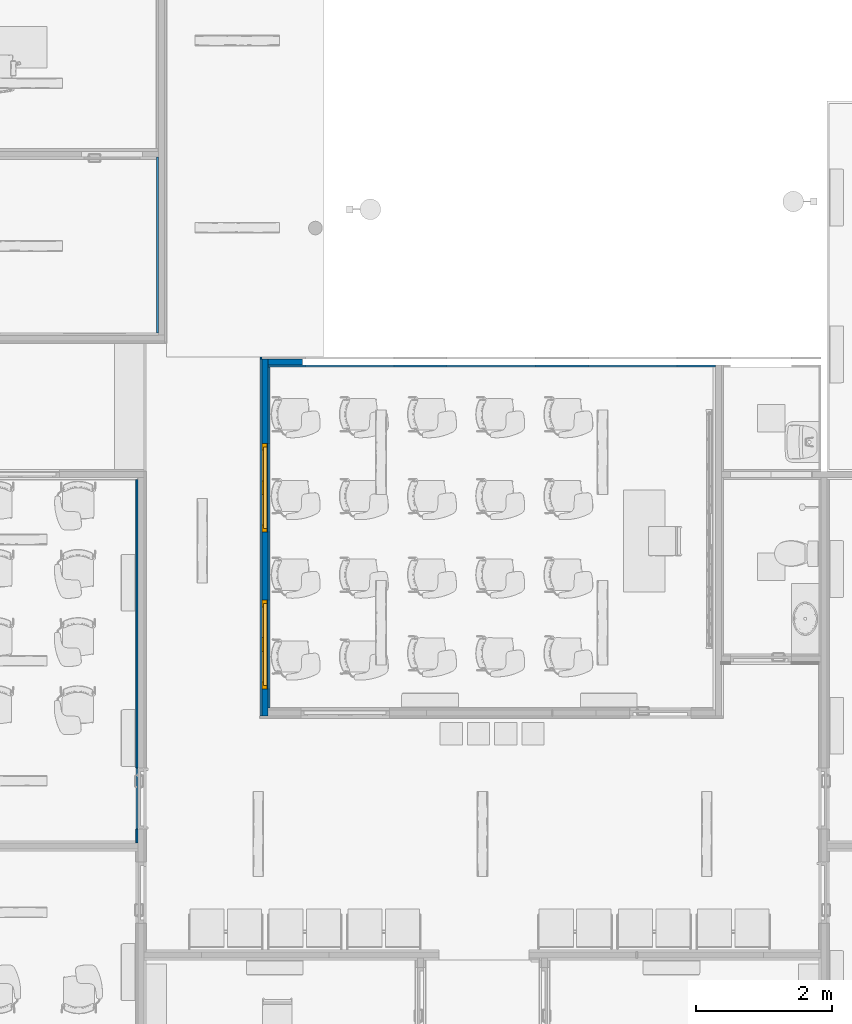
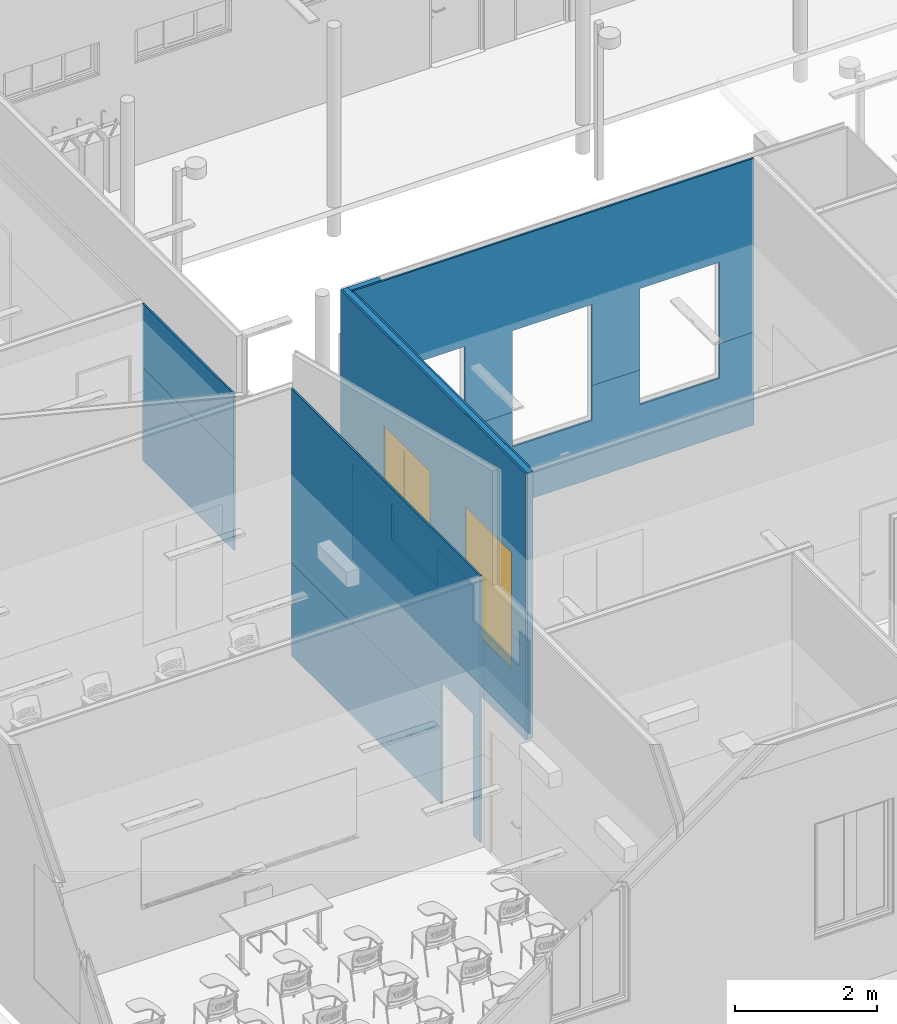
# One storey, part 16 of 155: 12 walls, 2 windows, 28 openings.
"""IFC2X3 building model written with IfcOpenShell, lengths in metres."""

import ifcopenshell
import ifcopenshell.guid

model = None  # the IFC model being written
_history = None  # IfcOwnerHistory: only IFC2X3 demands one
_inside = {}  # id of a spatial element -> (the spatial element, [elements in it])
_under = {}  # id of a project, library or spatial element -> (it, [spatial elements below it])
_declared = {}  # id of a project -> (the project, [libraries it declares])
_typed = {}  # id of a type object -> (the type object, [elements of that type])
_made_of = {}  # id of a material, layer set ... -> (it, [elements and type objects made of it])


def new_model(schema):
    """Start an empty IFC model of exactly this schema.

    Asked for "IFC4X3", IfcOpenShell would pick the latest addendum, in which some entities
    have other attributes; the version numbers below select the first issue.
    IFC2X3 requires an IfcOwnerHistory on every rooted entity: one is made here for all.
    """
    global model, _history
    if schema == "IFC4X3":
        model = ifcopenshell.file(schema_version=(4, 3, 0, 0))
    else:
        model = ifcopenshell.file(schema=schema)
    _inside.clear()
    _under.clear()
    _declared.clear()
    _typed.clear()
    _made_of.clear()
    _history = None
    if model.schema == "IFC2X3":
        org = make("IfcOrganization", Name="unknown")
        user = make(
            "IfcPersonAndOrganization",
            ThePerson=make("IfcPerson", FamilyName="unknown"),
            TheOrganization=org,
        )
        app = make(
            "IfcApplication",
            ApplicationDeveloper=org,
            Version="unknown",
            ApplicationFullName="unknown",
            ApplicationIdentifier="unknown",
        )
        _history = make(
            "IfcOwnerHistory",
            OwningUser=user,
            OwningApplication=app,
            ChangeAction="ADDED",
            CreationDate=0,
        )
    return model


def make(cls, **values):
    """One entity of the class cls with the attributes given. An attribute that is None is left unset."""
    return model.create_entity(
        cls, **{name: value for name, value in values.items() if value is not None}
    )


def entity(cls, *values):
    """Any entity or typed value of the class cls, its attributes in the order of the schema. None: left unset."""
    e = model.create_entity(cls)
    for i, value in enumerate(values):
        if value is not None:
            e[i] = value
    return e


def rooted(cls, **values):
    """An entity with a GlobalId (a new one), such as an element, a storey or a relation."""
    return make(cls, GlobalId=ifcopenshell.guid.new(), OwnerHistory=_history, **values)


def si_unit(unit_type, name, prefix=None):
    """IfcSIUnit, for example si_unit("LENGTHUNIT", "METRE", prefix="MILLI")."""
    return make("IfcSIUnit", UnitType=unit_type, Prefix=prefix, Name=name)


def converted_unit(unit_type, name, factor, base, dimensions=None, offset=None):
    """IfcConversionBasedUnit, such as the inch: factor (a typed value) times the base unit."""
    return make(
        "IfcConversionBasedUnit"
        if offset is None
        else "IfcConversionBasedUnitWithOffset",
        ConversionOffset=offset,
        Dimensions=None
        if dimensions is None
        else entity("IfcDimensionalExponents", *dimensions),
        UnitType=unit_type,
        Name=name,
        ConversionFactor=make(
            "IfcMeasureWithUnit", ValueComponent=factor, UnitComponent=base
        ),
    )


def derived_unit(unit_type, elements):
    """IfcDerivedUnit: a product of units, each with its exponent."""
    return make(
        "IfcDerivedUnit",
        Elements=[
            make("IfcDerivedUnitElement", Unit=unit, Exponent=power)
            for unit, power in elements
        ],
        UnitType=unit_type,
    )


def assignment(units):
    """IfcUnitAssignment: the units of a project."""
    return None if units is None else make("IfcUnitAssignment", Units=units)


def point(xyz):
    """IfcCartesianPoint."""
    return None if xyz is None else make("IfcCartesianPoint", Coordinates=xyz)


def direction(xyz):
    """IfcDirection."""
    return None if xyz is None else make("IfcDirection", DirectionRatios=xyz)


def frame(location, z_axis=None, x_axis=None):
    """IfcAxis2Placement3D, a coordinate frame: its origin and axes. An axis left out is left unset."""
    return make(
        "IfcAxis2Placement3D",
        Location=point(location),
        Axis=direction(z_axis),
        RefDirection=direction(x_axis),
    )


def frame_2d(location, x_axis=None):
    """IfcAxis2Placement2D, a coordinate frame in the plane: its origin and x axis."""
    return make(
        "IfcAxis2Placement2D", Location=point(location), RefDirection=direction(x_axis)
    )


def origin():
    """The frame at (0, 0, 0) with its axes left unset."""
    return frame((0.0, 0.0, 0.0))


def origin_2d_with_axis():
    """The frame at (0, 0) in the plane with the x axis (1, 0) written out."""
    return frame_2d((0.0, 0.0), x_axis=(1.0, 0.0))


def place(relative_to, where):
    """IfcLocalPlacement: puts the frame where relative to a parent placement (None: the world)."""
    return make(
        "IfcLocalPlacement", PlacementRelTo=relative_to, RelativePlacement=where
    )


def context(
    kind, dimensions, precision=None, world=None, true_north=None, identifier=None
):
    """IfcGeometricRepresentationContext, for example the 3D "Model" context."""
    return make(
        "IfcGeometricRepresentationContext",
        ContextIdentifier=identifier,
        ContextType=kind,
        CoordinateSpaceDimension=dimensions,
        Precision=precision,
        WorldCoordinateSystem=world,
        TrueNorth=true_north,
    )


def subcontext(parent, identifier, kind, view, scale=None):
    """IfcGeometricRepresentationSubContext, for example "Body" below "Model"."""
    return make(
        "IfcGeometricRepresentationSubContext",
        ContextIdentifier=identifier,
        ContextType=kind,
        ParentContext=parent,
        TargetScale=scale,
        TargetView=view,
    )


def project(units=None, contexts=None):
    """IfcProject with its units and contexts."""
    return rooted(
        "IfcProject",
        Name="project",
        RepresentationContexts=contexts,
        UnitsInContext=assignment(units),
    )


def spatial(cls, under=None, at=None, **own):
    """A site, building, storey or space (cls), placed at a placement, below another one or the project."""
    s = rooted(cls, ObjectPlacement=at, **own)
    if under is not None:
        _under.setdefault(under.id(), (under, []))[1].append(s)
    return s


def polyline(points):
    """IfcPolyline through the points."""
    return make("IfcPolyline", Points=[point(p) for p in points])


def profile(cls, at=None, kind="AREA", **sizes):
    """A parametric profile (cls). Its sizes go by their IFC names, for example OverallWidth=200.0."""
    return make(cls, ProfileType=kind, Position=at, **sizes)


def rectangle(**sizes):
    """IfcRectangleProfileDef."""
    return profile("IfcRectangleProfileDef", **sizes)


def outline(outer, holes=None, kind="AREA"):
    """IfcArbitraryClosedProfileDef: a profile drawn as a closed curve; with holes, ...WithVoids."""
    if holes is None:
        return make("IfcArbitraryClosedProfileDef", ProfileType=kind, OuterCurve=outer)
    return make(
        "IfcArbitraryProfileDefWithVoids",
        ProfileType=kind,
        OuterCurve=outer,
        InnerCurves=holes,
    )


def extrude(swept, where, along, depth):
    """IfcExtrudedAreaSolid: the profile swept, set in the frame where, extruded along a direction by depth."""
    return make(
        "IfcExtrudedAreaSolid",
        SweptArea=swept,
        Position=where,
        ExtrudedDirection=direction(along),
        Depth=depth,
    )


def shape(context_of_items, identifier, shape_type, items):
    """IfcShapeRepresentation: the items that make up one representation, for example the "Body"."""
    return make(
        "IfcShapeRepresentation",
        ContextOfItems=context_of_items,
        RepresentationIdentifier=identifier,
        RepresentationType=shape_type,
        Items=items,
    )


def source(mapping_origin, context_of_items, identifier, shape_type, items):
    """IfcRepresentationMap: a shape defined once, which mapped items show again and again."""
    return make(
        "IfcRepresentationMap",
        MappingOrigin=mapping_origin,
        MappedRepresentation=shape(context_of_items, identifier, shape_type, items),
    )


def transform(
    local_origin,
    x_axis=None,
    y_axis=None,
    z_axis=None,
    scale=None,
    scale2=None,
    scale3=None,
    uniform=True,
):
    """IfcCartesianTransformationOperator3D, or its non-uniform kind. x_axis, y_axis, z_axis: its Axis1, 2, 3."""
    if uniform:
        return make(
            "IfcCartesianTransformationOperator3D",
            Axis1=direction(x_axis),
            Axis2=direction(y_axis),
            LocalOrigin=point(local_origin),
            Scale=scale,
            Axis3=direction(z_axis),
        )
    return make(
        "IfcCartesianTransformationOperator3DnonUniform",
        Axis1=direction(x_axis),
        Axis2=direction(y_axis),
        LocalOrigin=point(local_origin),
        Scale=scale,
        Axis3=direction(z_axis),
        Scale2=scale2,
        Scale3=scale3,
    )


def mapped(mapping_source, mapping_target):
    """IfcMappedItem: shows the shape of a source again, moved by a transform."""
    return make(
        "IfcMappedItem", MappingSource=mapping_source, MappingTarget=mapping_target
    )


def material(Name=None, Category=None):
    """IfcMaterial."""
    return make("IfcMaterial", Name=Name, Category=Category)


def layer(
    of_material, thickness, ventilated=None, Name=None, Category=None, Priority=None
):
    """IfcMaterialLayer: one layer of a wall or slab, of a material (None: an air gap)."""
    return make(
        "IfcMaterialLayer",
        Material=of_material,
        LayerThickness=thickness,
        IsVentilated=ventilated,
        Name=Name,
        Category=Category,
        Priority=Priority,
    )


def layer_set(layers, Name=None):
    """IfcMaterialLayerSet."""
    return make("IfcMaterialLayerSet", MaterialLayers=layers, LayerSetName=Name)


def layer_usage(for_layer_set, set_direction, sense, offset, extent=None):
    """IfcMaterialLayerSetUsage: how a layer set lies in its element."""
    return make(
        "IfcMaterialLayerSetUsage",
        ForLayerSet=for_layer_set,
        LayerSetDirection=set_direction,
        DirectionSense=sense,
        OffsetFromReferenceLine=offset,
        ReferenceExtent=extent,
    )


def made_of(thing, what):
    """Note that an element or type object is made of a material, layer set ...; save() writes the relation."""
    if what is not None:
        _made_of.setdefault(what.id(), (what, []))[1].append(thing)
    return thing


def type_object(cls, material=None, **own):
    """A type object (cls), such as IfcWallType, which elements share."""
    return made_of(rooted(cls, **own), material)


def type_shapes(of_type, sources):
    """Give a type object the sources (RepresentationMaps) that its elements show as mapped items."""
    of_type.RepresentationMaps = sources


def element(
    cls,
    number,
    at=None,
    inside=None,
    cuts=None,
    type_object=None,
    material=None,
    context=None,
    identifier="Body",
    shape_type=None,
    held_by="IfcProductDefinitionShape",
    body=None,
    shapes=None,
    **own,
):
    """One element of the class cls, such as IfcWall. Its Tag is "e" and its number.

    at: its placement. inside: the storey or other place that contains it. cuts: it is an
    opening in that element (IfcRelVoidsElement). A single representation is given by context,
    identifier, shape_type and body (its items); several are given by shapes. held_by: the class
    of the entity that holds the representations. save() writes the other relations.
    """
    e = rooted(cls, Tag="e%d" % number, ObjectPlacement=at, **own)
    if body is not None:
        shapes = [shape(context, identifier, shape_type, body)]
    if shapes is not None:
        e.Representation = make(held_by, Representations=shapes)
    if inside is not None:
        _inside.setdefault(inside.id(), (inside, []))[1].append(e)
    if cuts is not None:
        rooted(
            "IfcRelVoidsElement", RelatingBuildingElement=cuts, RelatedOpeningElement=e
        )
    if type_object is not None:
        _typed.setdefault(type_object.id(), (type_object, []))[1].append(e)
    return made_of(e, material)


def fill(opening, filler):
    """IfcRelFillsElement: the door or window that sits in an opening."""
    return rooted(
        "IfcRelFillsElement",
        RelatingOpeningElement=opening,
        RelatedBuildingElement=filler,
    )


def aggregate(whole, parts):
    """IfcRelAggregates: a whole, such as a stair, and the parts it consists of."""
    return rooted("IfcRelAggregates", RelatingObject=whole, RelatedObjects=parts)


def save(model, path):
    """Write the relations noted so far, then the file.

    IfcRelAggregates (storeys below a building ...), IfcRelContainedInSpatialStructure (elements
    in a storey), IfcRelDefinesByType, IfcRelAssociatesMaterial and IfcRelDeclares: one each for
    every whole, place, type object, material and project.
    """
    for whole, parts in _under.values():
        aggregate(whole, parts)
    for where, things in _inside.values():
        rooted(
            "IfcRelContainedInSpatialStructure",
            RelatedElements=things,
            RelatingStructure=where,
        )
    for kind, things in _typed.values():
        rooted("IfcRelDefinesByType", RelatedObjects=things, RelatingType=kind)
    for what, things in _made_of.values():
        rooted("IfcRelAssociatesMaterial", RelatedObjects=things, RelatingMaterial=what)
    for by, libraries in _declared.values():
        rooted("IfcRelDeclares", RelatingContext=by, RelatedDefinitions=libraries)
    model.write(path)


model = new_model("IFC2X3")

# Units and contexts
model_context = context("Model", 3, precision=1e-05, world=origin(), true_north=direction((6.12303176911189e-17, 1.0)))
body_context = subcontext(model_context, "Body", "Model", "MODEL_VIEW")
ifc_project = project(units=[si_unit("LENGTHUNIT", "METRE"), si_unit("AREAUNIT", "SQUARE_METRE"), si_unit("VOLUMEUNIT", "CUBIC_METRE"), converted_unit("PLANEANGLEUNIT", "DEGREE", entity("IfcRatioMeasure", 0.0174532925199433), si_unit("PLANEANGLEUNIT", "RADIAN"), dimensions=[0, 0, 0, 0, 0, 0, 0]), si_unit("MASSUNIT", "GRAM", prefix="KILO"), derived_unit("MASSDENSITYUNIT", [(si_unit("MASSUNIT", "GRAM", prefix="KILO"), 1), (si_unit("LENGTHUNIT", "METRE"), -3)]), si_unit("TIMEUNIT", "SECOND"), si_unit("FREQUENCYUNIT", "HERTZ"), si_unit("THERMODYNAMICTEMPERATUREUNIT", "DEGREE_CELSIUS"), derived_unit("THERMALTRANSMITTANCEUNIT", [(si_unit("MASSUNIT", "GRAM", prefix="KILO"), 1), (si_unit("THERMODYNAMICTEMPERATUREUNIT", "KELVIN"), -1), (si_unit("TIMEUNIT", "SECOND"), -3)]), derived_unit("VOLUMETRICFLOWRATEUNIT", [(si_unit("LENGTHUNIT", "METRE"), 3), (si_unit("TIMEUNIT", "SECOND"), -1)]), si_unit("ELECTRICCURRENTUNIT", "AMPERE"), si_unit("ELECTRICVOLTAGEUNIT", "VOLT"), si_unit("POWERUNIT", "WATT"), si_unit("FORCEUNIT", "NEWTON", prefix="KILO"), si_unit("ILLUMINANCEUNIT", "LUX"), si_unit("LUMINOUSFLUXUNIT", "LUMEN"), si_unit("LUMINOUSINTENSITYUNIT", "CANDELA"), derived_unit("USERDEFINED", [(si_unit("MASSUNIT", "GRAM", prefix="KILO"), -1), (si_unit("LENGTHUNIT", "METRE"), -2), (si_unit("TIMEUNIT", "SECOND"), 3), (si_unit("LUMINOUSFLUXUNIT", "LUMEN"), 1)]), derived_unit("LINEARVELOCITYUNIT", [(si_unit("LENGTHUNIT", "METRE"), 1), (si_unit("TIMEUNIT", "SECOND"), -1)]), si_unit("PRESSUREUNIT", "PASCAL"), derived_unit("USERDEFINED", [(si_unit("LENGTHUNIT", "METRE"), -2), (si_unit("MASSUNIT", "GRAM", prefix="KILO"), 1), (si_unit("TIMEUNIT", "SECOND"), -2)])], contexts=[model_context])

# Site, building, storey
site_placement = place(None, frame((26.9889013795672, -17.5624287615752, 0.0)))
site = spatial("IfcSite", under=ifc_project, at=site_placement, Name="Default", CompositionType="ELEMENT")
building_placement = place(site_placement, origin())
building = spatial("IfcBuilding", under=site, at=building_placement, Name="C. C. L. Monsenhor Antônio Sampaio", CompositionType="ELEMENT")
storey_placement = place(building_placement, frame((0.0, 0.0, 1.19999999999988)))
storey = spatial("IfcBuildingStorey", under=building, at=storey_placement, Name="Nível 1.2", CompositionType="ELEMENT", Elevation=1.19999999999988)

# Wall, openings, windows
ifc_material_1 = material(Name="ALVENARIA")
ifc_layer_1 = layer(ifc_material_1, 0.09)
ifc_layer_set_1 = layer_set([ifc_layer_1], Name="Parede básica:ENucleo parede 15cm")
ifc_layer_usage_1 = layer_usage(ifc_layer_set_1, "AXIS2", "POSITIVE", -0.045)
wall_type_1 = type_object("IfcWallType", Name="Parede básica:ENucleo parede 15cm", PredefinedType="STANDARD", material=ifc_layer_set_1)
wall_1_placement = place(storey_placement, frame((-4.39555229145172, -31.9230663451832, 0.0), z_axis=(0.0, 0.0, 1.0), x_axis=(0.0, 1.0, 0.0)))
wall_1 = element("IfcWallStandardCase", 1, at=wall_1_placement, inside=storey, type_object=wall_type_1, material=ifc_layer_usage_1, Name="Parede básica:ENucleo parede 15cm", ObjectType="Parede básica:ENucleo parede 15cm", context=body_context, shape_type="SweptSolid", body=[
    extrude(rectangle(XDim=5.23999999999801, YDim=0.0900000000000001, at=frame_2d((2.619999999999, 6.93889390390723e-17), x_axis=(-1.0, 0.0))), origin(), (0.0, 0.0, 1.0), 4.60000000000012),
])
opening_1_placement = place(wall_1_placement, frame((0.399999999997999, -0.0450000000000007, 1.0)))
opening_1 = element("IfcOpeningElement", 2, at=opening_1_placement, cuts=wall_1, Name="Janela levantamento:130 x 200cm 2:1", ObjectType="Opening", context=body_context, shape_type="SweptSolid", body=[
    extrude(rectangle(XDim=2.0, YDim=1.30000000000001, at=frame_2d((0.999999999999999, 0.650000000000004), x_axis=(1.0, 0.0))), frame((0.0, 0.0, 0.0), z_axis=(0.0, 1.0, 0.0), x_axis=(0.0, 0.0, 1.0)), (0.0, 0.0, 1.0), 0.09),
])
opening_2_placement = place(wall_1_placement, frame((2.699999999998, -0.045000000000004, 1.0)))
opening_2 = element("IfcOpeningElement", 3, at=opening_2_placement, cuts=wall_1, Name="Janela levantamento:130 x 200cm 2:1", ObjectType="Opening", context=body_context, shape_type="SweptSolid", body=[
    extrude(rectangle(XDim=2.0, YDim=1.30000000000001, at=frame_2d((0.999999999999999, 0.650000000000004), x_axis=(1.0, 0.0))), frame((0.0, 0.0, 0.0), z_axis=(0.0, 1.0, 0.0), x_axis=(0.0, 0.0, 1.0)), (0.0, 0.0, 1.0), 0.09),
])
ifc_material_2 = material(Name="Pintura Azul")
window_style = type_object("IfcWindowStyle", Name="130 x 200cm 2", ConstructionType="NOTDEFINED", OperationType="NOTDEFINED", ParameterTakesPrecedence=False, Sizeable=False, material=ifc_material_2)
shared_shape = source(origin(), body_context, "Body", "SweptSolid", [
    extrude(rectangle(XDim=1.3, YDim=0.0209999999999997, at=frame_2d((0.0, 4.33680868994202e-18), x_axis=(1.0, 0.0))), frame((0.650000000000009, 0.0795000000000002, 0.0)), (0.0, 0.0, 1.0), 0.0299999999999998),
    extrude(outline(polyline([(-0.325000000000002, -1.0), (0.325000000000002, -1.0), (0.325000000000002, 1.0), (-0.325000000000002, 1.0), (-0.325000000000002, -1.0)]), holes=[polyline([(0.225000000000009, -0.899999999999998), (-0.225000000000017, -0.899999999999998), (-0.225000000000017, 0.900000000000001), (0.225000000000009, 0.900000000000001), (0.225000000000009, -0.899999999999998)])]), frame((0.325000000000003, 0.0690000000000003, 1.0), z_axis=(0.0, 1.0, 0.0), x_axis=(1.0, 0.0, 0.0)), (0.0, 0.0, 1.0), 0.04),
    extrude(outline(polyline([(-0.650000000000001, -1.0), (0.650000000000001, -1.0), (0.650000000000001, 1.0), (-0.650000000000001, 1.0), (-0.650000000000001, -1.0)]), holes=[polyline([(-0.599999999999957, -0.949999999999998), (-0.599999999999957, 0.94), (0.600000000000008, 0.94), (0.600000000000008, -0.949999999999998), (-0.599999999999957, -0.949999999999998)])]), frame((0.650000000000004, 0.019, 1.0), z_axis=(0.0, 1.0, 0.0), x_axis=(1.0, 0.0, 0.0)), (0.0, 0.0, 1.0), 0.05),
    extrude(rectangle(XDim=0.0205880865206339, YDim=0.450000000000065, at=origin_2d_with_axis()), frame((0.324999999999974, 0.0987059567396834, 0.0999999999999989), z_axis=(0.0, 0.0, 1.0), x_axis=(0.0, 1.0, 0.0)), (0.0, 0.0, 1.0), 1.8),
    extrude(rectangle(XDim=0.0205880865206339, YDim=0.449999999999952, at=frame_2d((0.0, 4.16333634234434e-17), x_axis=(1.0, 0.0))), frame((0.977826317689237, 0.0987059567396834, 0.100000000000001), z_axis=(0.0, 0.0, 1.0), x_axis=(0.0, 1.0, 0.0)), (0.0, 0.0, 1.0), 1.8),
    extrude(outline(polyline([(-1.0, -0.325000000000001), (1.0, -0.325000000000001), (1.0, 0.325000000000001), (-1.0, 0.325000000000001), (-1.0, -0.325000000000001)]), holes=[polyline([(-0.899999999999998, 0.224999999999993), (0.900000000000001, 0.224999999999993), (0.900000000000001, -0.225000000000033), (-0.899999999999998, -0.225000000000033), (-0.899999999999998, 0.224999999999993)])]), frame((0.975000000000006, 0.0690000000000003, 1.0), z_axis=(0.0, 1.0, 0.0), x_axis=(0.0, 0.0, -1.0)), (0.0, 0.0, 1.0), 0.04),
])
type_shapes(window_style, [shared_shape])
window_1_placement = place(opening_2_placement, origin())
window_1 = element("IfcWindow", 4, at=window_1_placement, inside=storey, type_object=window_style, material=ifc_material_2, Name="Janela levantamento:130 x 200cm 2", ObjectType="130 x 200cm 2", OverallHeight=2.0, OverallWidth=1.30000000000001, context=body_context, shape_type="MappedRepresentation", body=[
    mapped(shared_shape, transform((0.0, 0.0, 0.0), scale=1.0)),
])
fill(opening_2, window_1)
window_2_placement = place(opening_1_placement, origin())
window_2 = element("IfcWindow", 5, at=window_2_placement, inside=storey, type_object=window_style, material=ifc_material_2, Name="Janela levantamento:130 x 200cm 2", ObjectType="130 x 200cm 2", OverallHeight=2.0, OverallWidth=1.30000000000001, context=body_context, shape_type="MappedRepresentation", body=[
    mapped(shared_shape, transform((0.0, 0.0, 0.0), scale=1.0)),
])
fill(opening_1, window_2)

# Wall
ifc_layer_usage_2 = layer_usage(ifc_layer_set_1, "AXIS2", "POSITIVE", -0.045)
wall_2_placement = place(storey_placement, frame((-4.35055229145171, -26.7280663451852, 0.0)))
element("IfcWallStandardCase", 6, at=wall_2_placement, inside=storey, type_object=wall_type_1, material=ifc_layer_usage_2, Name="Parede básica:ENucleo parede 15cm", ObjectType="Parede básica:ENucleo parede 15cm", context=body_context, shape_type="SweptSolid", body=[
    extrude(rectangle(XDim=0.5050000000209, YDim=0.0899999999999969, at=frame_2d((0.25250000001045, 8.36136715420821e-16), x_axis=(-1.0, 0.0))), origin(), (0.0, 0.0, 1.0), 4.60000000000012),
])

# Wall, openings
ifc_material_3 = material(Name=".CERÂMICA 10x10 BRANCA")
ifc_layer_2 = layer(ifc_material_3, 0.0035)
ifc_material_4 = material(Name="Argamassa Colante")
ifc_layer_3 = layer(ifc_material_4, 0.02)
ifc_material_5 = material(Name="4")
ifc_layer_4 = layer(ifc_material_5, 0.0015)
ifc_material_6 = material(Name="3")
ifc_layer_5 = layer(ifc_material_6, 0.005)
ifc_layer_set_2 = layer_set([ifc_layer_2, ifc_layer_3, ifc_layer_4, ifc_layer_5], Name="Parede básica:ECeramica branca 10x10cm")
ifc_layer_usage_3 = layer_usage(ifc_layer_set_2, "AXIS2", "NEGATIVE", 0.015)
wall_type_2 = type_object("IfcWallType", Name="Parede básica:ECeramica branca 10x10cm", PredefinedType="STANDARD", material=ifc_layer_set_2)
wall_3_placement = place(storey_placement, frame((-4.45555229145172, -31.9230663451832, 0.0), z_axis=(0.0, 0.0, 1.0), x_axis=(0.0, 1.0, 0.0)))
wall_3 = element("IfcWallStandardCase", 7, at=wall_3_placement, inside=storey, type_object=wall_type_2, material=ifc_layer_usage_3, Name="Parede básica:ECeramica branca 10x10cm", ObjectType="Parede básica:ECeramica branca 10x10cm", context=body_context, shape_type="SweptSolid", body=[
    extrude(rectangle(XDim=5.269999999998, YDim=0.0299999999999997, at=frame_2d((2.634999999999, 2.42861286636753e-17), x_axis=(-1.0, 0.0))), origin(), (0.0, 0.0, 1.0), 1.6),
])
opening_3_placement = place(wall_3_placement, origin())
element("IfcOpeningElement", 8, at=opening_3_placement, cuts=wall_3, Name="Parede básica:ECeramica branca 10x10cm", ObjectType="Opening", context=body_context, shape_type="SweptSolid", body=[
    extrude(rectangle(XDim=2.0, YDim=1.30000000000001, at=frame_2d((1.66533453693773e-16, 0.0), x_axis=(1.0, 0.0))), frame((3.349999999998, -1.629, 2.0), z_axis=(0.0, 1.0, 0.0), x_axis=(0.0, 0.0, 1.0)), (0.0, 0.0, 1.0), 3.048),
])
opening_4_placement = place(wall_3_placement, origin())
element("IfcOpeningElement", 9, at=opening_4_placement, cuts=wall_3, Name="Parede básica:ECeramica branca 10x10cm", ObjectType="Opening", context=body_context, shape_type="SweptSolid", body=[
    extrude(rectangle(XDim=2.0, YDim=1.30000000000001, at=frame_2d((1.66533453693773e-16, 0.0), x_axis=(1.0, 0.0))), frame((1.04999999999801, -1.629, 2.0), z_axis=(0.0, 1.0, 0.0), x_axis=(0.0, 0.0, 1.0)), (0.0, 0.0, 1.0), 3.048),
])

# Wall
wall_4_placement = place(storey_placement, frame((-6.27555229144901, -28.453066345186, 0.0), z_axis=(0.0, 0.0, 1.0), x_axis=(0.0, -1.0, 0.0)))
element("IfcWall", 10, at=wall_4_placement, inside=storey, type_object=wall_type_2, Name="Parede básica:ECeramica branca 10x10cm", ObjectType="Parede básica:ECeramica branca 10x10cm", context=body_context, shape_type="SweptSolid", body=[
    extrude(rectangle(XDim=4.23000000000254, YDim=0.0299999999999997, at=frame_2d((-1.99840144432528e-15, 0.0), x_axis=(1.0, 0.0))), frame((2.11500000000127, 0.0, 0.0)), (0.0, 0.0, 1.0), 1.6),
    extrude(rectangle(XDim=0.199999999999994, YDim=0.0299999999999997, at=frame_2d((0.0140000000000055, -0.0030000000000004), x_axis=(1.0, 0.0))), frame((5.24400000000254, -0.00300000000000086, 0.0), z_axis=(0.0, 0.0, 1.0), x_axis=(-1.0, 0.0, 0.0)), (0.0, 0.0, 1.0), 1.6),
])

# Wall, openings
ifc_layer_usage_4 = layer_usage(ifc_layer_set_2, "AXIS2", "NEGATIVE", 0.015)
wall_5_placement = place(storey_placement, frame((-5.97555229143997, -26.3030663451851, 0.4), z_axis=(0.0, 0.0, 1.0), x_axis=(0.0, 1.0, 0.0)))
wall_5 = element("IfcWallStandardCase", 11, at=wall_5_placement, inside=storey, type_object=wall_type_2, material=ifc_layer_usage_4, Name="Parede básica:ECeramica branca 10x10cm", ObjectType="Parede básica:ECeramica branca 10x10cm", context=body_context, shape_type="SweptSolid", body=[
    extrude(rectangle(XDim=2.57999999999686, YDim=0.0299999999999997, at=frame_2d((1.28999999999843, 0.0), x_axis=(-1.0, 0.0))), origin(), (0.0, 0.0, 1.0), 1.6),
])
opening_5_placement = place(wall_5_placement, origin())
element("IfcOpeningElement", 12, at=opening_5_placement, cuts=wall_5, Name="Parede básica:ECeramica branca 10x10cm", ObjectType="Opening", context=body_context, shape_type="SweptSolid", body=[
    extrude(rectangle(XDim=2.05, YDim=1.85, at=frame_2d((0.0, -2.16493489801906e-15), x_axis=(1.0, 0.0))), frame((7.19499999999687, -1.539, 0.625), z_axis=(0.0, 1.0, 0.0), x_axis=(0.0, 0.0, 1.0)), (0.0, 0.0, 1.0), 3.048),
])
opening_6_placement = place(wall_5_placement, origin())
element("IfcOpeningElement", 13, at=opening_6_placement, cuts=wall_5, Name="Parede básica:ECeramica branca 10x10cm", ObjectType="Opening", context=body_context, shape_type="SweptSolid", body=[
    extrude(rectangle(XDim=0.569999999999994, YDim=3.07, at=frame_2d((0.0, 2.77555756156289e-16), x_axis=(0.0, 1.0))), frame((10.8300000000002, -1.539, 1.65000000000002), z_axis=(0.0, 1.0, 0.0), x_axis=(-1.0, 0.0, 0.0)), (0.0, 0.0, 1.0), 3.048),
])
opening_7_placement = place(wall_5_placement, origin())
element("IfcOpeningElement", 14, at=opening_7_placement, cuts=wall_5, Name="Parede básica:ECeramica branca 10x10cm", ObjectType="Opening", context=body_context, shape_type="SweptSolid", body=[
    extrude(rectangle(XDim=0.569999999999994, YDim=3.07, at=frame_2d((0.0, 2.77555756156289e-16), x_axis=(0.0, 1.0))), frame((14.5300000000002, -1.539, 1.65000000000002), z_axis=(0.0, 1.0, 0.0), x_axis=(-1.0, 0.0, 0.0)), (0.0, 0.0, 1.0), 3.048),
])

ifc_layer_usage_5 = layer_usage(ifc_layer_set_2, "AXIS2", "POSITIVE", -0.015)
wall_6_placement = place(storey_placement, frame((-4.35055229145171, -26.7880663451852, 0.0)))
wall_6 = element("IfcWallStandardCase", 15, at=wall_6_placement, inside=storey, type_object=wall_type_2, material=ifc_layer_usage_5, Name="Parede básica:ECeramica branca 10x10cm", ObjectType="Parede básica:ECeramica branca 10x10cm", context=body_context, shape_type="SweptSolid", body=[
    extrude(rectangle(XDim=6.55998629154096, YDim=0.0300000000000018, at=frame_2d((3.27999314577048, 0.0), x_axis=(-1.0, 0.0))), origin(), (0.0, 0.0, 1.0), 1.6),
])
opening_8_placement = place(wall_6_placement, origin())
element("IfcOpeningElement", 16, at=opening_8_placement, cuts=wall_6, Name="Parede básica:ECeramica branca 10x10cm", ObjectType="Opening", context=body_context, shape_type="SweptSolid", body=[
    extrude(rectangle(XDim=2.0, YDim=1.30000000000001, at=frame_2d((1.66533453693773e-16, 0.0), x_axis=(1.0, 0.0))), frame((5.3500000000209, -1.419, 2.0), z_axis=(0.0, 1.0, 0.0), x_axis=(0.0, 0.0, 1.0)), (0.0, 0.0, 1.0), 3.048),
])
opening_9_placement = place(wall_6_placement, origin())
element("IfcOpeningElement", 17, at=opening_9_placement, cuts=wall_6, Name="Parede básica:ECeramica branca 10x10cm", ObjectType="Opening", context=body_context, shape_type="SweptSolid", body=[
    extrude(rectangle(XDim=2.0, YDim=1.30000000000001, at=frame_2d((-1.11022302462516e-16, -3.88578058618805e-16), x_axis=(0.0, 1.0))), frame((3.2700000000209, -1.419, 2.0), z_axis=(0.0, 1.0, 0.0), x_axis=(-1.0, 0.0, 0.0)), (0.0, 0.0, 1.0), 3.048),
])
opening_10_placement = place(wall_6_placement, origin())
element("IfcOpeningElement", 18, at=opening_10_placement, cuts=wall_6, Name="Parede básica:ECeramica branca 10x10cm", ObjectType="Opening", context=body_context, shape_type="SweptSolid", body=[
    extrude(rectangle(XDim=2.0, YDim=1.30000000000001, at=frame_2d((0.0, 3.88578058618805e-16), x_axis=(0.0, 1.0))), frame((1.1950000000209, -1.419, 2.0), z_axis=(0.0, 1.0, 0.0), x_axis=(-1.0, 0.0, 0.0)), (0.0, 0.0, 1.0), 3.048),
])
opening_11_placement = place(wall_6_placement, origin())
element("IfcOpeningElement", 19, at=opening_11_placement, cuts=wall_6, Name="Parede básica:ECeramica branca 10x10cm", ObjectType="Opening", context=body_context, shape_type="SweptSolid", body=[
    extrude(rectangle(XDim=2.09999999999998, YDim=0.9, at=frame_2d((-1.11022302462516e-16, 0.0), x_axis=(1.0, 0.0))), frame((7.2300000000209, -1.509, 0.799999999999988), z_axis=(0.0, 1.0, 0.0), x_axis=(0.0, 0.0, 1.0)), (0.0, 0.0, 1.0), 3.048),
])

ifc_layer_usage_6 = layer_usage(ifc_layer_set_2, "AXIS2", "NEGATIVE", 0.015)
wall_7_placement = place(storey_placement, frame((-4.33555229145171, -26.8030663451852, 0.0), z_axis=(0.0, 0.0, 1.0), x_axis=(0.0, -1.0, 0.0)))
wall_7 = element("IfcWallStandardCase", 20, at=wall_7_placement, inside=storey, type_object=wall_type_2, material=ifc_layer_usage_6, Name="Parede básica:ECeramica branca 10x10cm", ObjectType="Parede básica:ECeramica branca 10x10cm", context=body_context, shape_type="SweptSolid", body=[
    extrude(rectangle(XDim=4.999999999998, YDim=0.0299999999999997, at=frame_2d((2.499999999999, 0.0), x_axis=(-1.0, 0.0))), origin(), (0.0, 0.0, 1.0), 1.6),
])
opening_12_placement = place(wall_7_placement, origin())
element("IfcOpeningElement", 21, at=opening_12_placement, cuts=wall_7, Name="Parede básica:ECeramica branca 10x10cm", ObjectType="Opening", context=body_context, shape_type="SweptSolid", body=[
    extrude(rectangle(XDim=2.0, YDim=1.30000000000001, at=frame_2d((0.0, -3.88578058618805e-16), x_axis=(0.0, 1.0))), frame((1.77, -1.539, 2.0), z_axis=(0.0, 1.0, 0.0), x_axis=(-1.0, 0.0, 0.0)), (0.0, 0.0, 1.0), 3.048),
])
opening_13_placement = place(wall_7_placement, origin())
element("IfcOpeningElement", 22, at=opening_13_placement, cuts=wall_7, Name="Parede básica:ECeramica branca 10x10cm", ObjectType="Opening", context=body_context, shape_type="SweptSolid", body=[
    extrude(rectangle(XDim=2.0, YDim=1.30000000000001, at=frame_2d((0.0, -3.88578058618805e-16), x_axis=(0.0, 1.0))), frame((4.07, -1.539, 2.0), z_axis=(0.0, 1.0, 0.0), x_axis=(-1.0, 0.0, 0.0)), (0.0, 0.0, 1.0), 3.048),
])

ifc_material_7 = material(Name="Acabamento Branco")
ifc_layer_6 = layer(ifc_material_7, 0.0035)
ifc_material_8 = material(Name="Massa corrida")
ifc_layer_7 = layer(ifc_material_8, 0.02)
ifc_layer_8 = layer(ifc_material_5, 0.0015)
ifc_layer_9 = layer(ifc_material_6, 0.005)
ifc_layer_set_3 = layer_set([ifc_layer_6, ifc_layer_7, ifc_layer_8, ifc_layer_9], Name="Parede básica:EPintura Branca")
ifc_layer_usage_7 = layer_usage(ifc_layer_set_3, "AXIS2", "NEGATIVE", 0.015)
wall_type_3 = type_object("IfcWallType", Name="Parede básica:EPintura Branca", PredefinedType="STANDARD", material=ifc_layer_set_3)
wall_8_placement = place(storey_placement, frame((-4.45555229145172, -31.9230663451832, 1.6), z_axis=(0.0, 0.0, 1.0), x_axis=(0.0, 1.0, 0.0)))
wall_8 = element("IfcWallStandardCase", 23, at=wall_8_placement, inside=storey, type_object=wall_type_3, material=ifc_layer_usage_7, Name="Parede básica:EPintura Branca", ObjectType="Parede básica:EPintura Branca", context=body_context, shape_type="SweptSolid", body=[
    extrude(rectangle(XDim=5.239999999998, YDim=0.0299999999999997, at=frame_2d((2.619999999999, 0.0), x_axis=(-1.0, 0.0))), origin(), (0.0, 0.0, 1.0), 3.00000000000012),
])
opening_14_placement = place(wall_8_placement, origin())
element("IfcOpeningElement", 24, at=opening_14_placement, cuts=wall_8, Name="Parede básica:EPintura Branca", ObjectType="Opening", context=body_context, shape_type="SweptSolid", body=[
    extrude(rectangle(XDim=2.0, YDim=1.30000000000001, at=frame_2d((1.66533453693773e-16, 0.0), x_axis=(1.0, 0.0))), frame((3.349999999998, -1.629, 0.400000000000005), z_axis=(0.0, 1.0, 0.0), x_axis=(0.0, 0.0, 1.0)), (0.0, 0.0, 1.0), 3.048),
])
opening_15_placement = place(wall_8_placement, origin())
element("IfcOpeningElement", 25, at=opening_15_placement, cuts=wall_8, Name="Parede básica:EPintura Branca", ObjectType="Opening", context=body_context, shape_type="SweptSolid", body=[
    extrude(rectangle(XDim=2.0, YDim=1.30000000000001, at=frame_2d((1.66533453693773e-16, 0.0), x_axis=(1.0, 0.0))), frame((1.04999999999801, -1.629, 0.400000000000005), z_axis=(0.0, 1.0, 0.0), x_axis=(0.0, 0.0, 1.0)), (0.0, 0.0, 1.0), 3.048),
])

ifc_layer_usage_8 = layer_usage(ifc_layer_set_3, "AXIS2", "POSITIVE", -0.015)
wall_9_placement = place(storey_placement, frame((-6.27555229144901, -28.453066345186, 1.6), z_axis=(0.0, 0.0, 1.0), x_axis=(0.0, -1.0, 0.0)))
wall_9 = element("IfcWallStandardCase", 26, at=wall_9_placement, inside=storey, type_object=wall_type_3, material=ifc_layer_usage_8, Name="Parede básica:EPintura Branca", ObjectType="Parede básica:EPintura Branca", context=body_context, shape_type="SweptSolid", body=[
    extrude(rectangle(XDim=5.33000000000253, YDim=0.0299999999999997, at=frame_2d((2.66500000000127, 0.0), x_axis=(-1.0, 0.0))), origin(), (0.0, 0.0, 1.0), 3.00000000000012),
])
opening_16_placement = place(wall_9_placement, origin())
element("IfcOpeningElement", 27, at=opening_16_placement, cuts=wall_9, Name="Parede básica:EPintura Branca", ObjectType="Opening", context=body_context, shape_type="SweptSolid", body=[
    extrude(rectangle(XDim=2.09999999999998, YDim=0.900000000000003, at=frame_2d((0.0, 0.0), x_axis=(0.0, 1.0))), frame((4.68000000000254, -1.509, -0.550000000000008), z_axis=(0.0, 1.0, 0.0), x_axis=(-1.0, 0.0, 0.0)), (0.0, 0.0, 1.0), 3.048),
])
opening_17_placement = place(wall_9_placement, origin())
element("IfcOpeningElement", 28, at=opening_17_placement, cuts=wall_9, Name="Parede básica:EPintura Branca", ObjectType="Opening", context=body_context, shape_type="SweptSolid", body=[
    extrude(rectangle(XDim=2.09999999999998, YDim=0.899999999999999, at=frame_2d((-3.33066907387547e-16, 2.16493489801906e-15), x_axis=(1.0, 0.0))), frame((6.05999999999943, -1.509, -0.550000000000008), z_axis=(0.0, 1.0, 0.0), x_axis=(0.0, 0.0, 1.0)), (0.0, 0.0, 1.0), 3.048),
])

ifc_layer_usage_9 = layer_usage(ifc_layer_set_3, "AXIS2", "NEGATIVE", 0.015)
wall_10_placement = place(storey_placement, frame((-5.97555229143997, -26.3030663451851, 2.0), z_axis=(0.0, 0.0, 1.0), x_axis=(0.0, 1.0, 0.0)))
wall_10 = element("IfcWallStandardCase", 29, at=wall_10_placement, inside=storey, type_object=wall_type_3, material=ifc_layer_usage_9, Name="Parede básica:EPintura Branca", ObjectType="Parede básica:EPintura Branca", context=body_context, shape_type="SweptSolid", body=[
    extrude(rectangle(XDim=2.57999999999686, YDim=0.0299999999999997, at=frame_2d((1.28999999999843, 0.0), x_axis=(-1.0, 0.0))), origin(), (0.0, 0.0, 1.0), 1.10000000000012),
])
opening_18_placement = place(wall_10_placement, origin())
element("IfcOpeningElement", 30, at=opening_18_placement, cuts=wall_10, Name="Parede básica:EPintura Branca", ObjectType="Opening", context=body_context, shape_type="SweptSolid", body=[
    extrude(rectangle(XDim=2.05, YDim=1.85, at=frame_2d((0.0, -2.16493489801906e-15), x_axis=(1.0, 0.0))), frame((7.19499999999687, -1.539, -0.975), z_axis=(0.0, 1.0, 0.0), x_axis=(0.0, 0.0, 1.0)), (0.0, 0.0, 1.0), 3.048),
])
opening_19_placement = place(wall_10_placement, origin())
element("IfcOpeningElement", 31, at=opening_19_placement, cuts=wall_10, Name="Parede básica:EPintura Branca", ObjectType="Opening", context=body_context, shape_type="SweptSolid", body=[
    extrude(rectangle(XDim=0.569999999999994, YDim=3.07, at=frame_2d((0.0, 2.77555756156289e-16), x_axis=(0.0, 1.0))), frame((10.8300000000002, -1.539, 0.05000000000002), z_axis=(0.0, 1.0, 0.0), x_axis=(-1.0, 0.0, 0.0)), (0.0, 0.0, 1.0), 3.048),
])
opening_20_placement = place(wall_10_placement, origin())
element("IfcOpeningElement", 32, at=opening_20_placement, cuts=wall_10, Name="Parede básica:EPintura Branca", ObjectType="Opening", context=body_context, shape_type="SweptSolid", body=[
    extrude(rectangle(XDim=0.569999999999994, YDim=3.07, at=frame_2d((0.0, 2.77555756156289e-16), x_axis=(0.0, 1.0))), frame((14.5300000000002, -1.539, 0.05000000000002), z_axis=(0.0, 1.0, 0.0), x_axis=(-1.0, 0.0, 0.0)), (0.0, 0.0, 1.0), 3.048),
])

ifc_layer_usage_10 = layer_usage(ifc_layer_set_3, "AXIS2", "POSITIVE", -0.015)
wall_11_placement = place(storey_placement, frame((-4.35055229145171, -26.7880663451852, 1.6)))
wall_11 = element("IfcWallStandardCase", 33, at=wall_11_placement, inside=storey, type_object=wall_type_3, material=ifc_layer_usage_10, Name="Parede básica:EPintura Branca", ObjectType="Parede básica:EPintura Branca", context=body_context, shape_type="SweptSolid", body=[
    extrude(rectangle(XDim=6.55998629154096, YDim=0.0300000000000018, at=frame_2d((3.27999314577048, 0.0), x_axis=(-1.0, 0.0))), origin(), (0.0, 0.0, 1.0), 3.00000000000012),
])
opening_21_placement = place(wall_11_placement, origin())
element("IfcOpeningElement", 34, at=opening_21_placement, cuts=wall_11, Name="Parede básica:EPintura Branca", ObjectType="Opening", context=body_context, shape_type="SweptSolid", body=[
    extrude(rectangle(XDim=2.0, YDim=1.30000000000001, at=frame_2d((1.66533453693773e-16, 0.0), x_axis=(1.0, 0.0))), frame((5.3500000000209, -1.419, 0.400000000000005), z_axis=(0.0, 1.0, 0.0), x_axis=(0.0, 0.0, 1.0)), (0.0, 0.0, 1.0), 3.048),
])
opening_22_placement = place(wall_11_placement, origin())
element("IfcOpeningElement", 35, at=opening_22_placement, cuts=wall_11, Name="Parede básica:EPintura Branca", ObjectType="Opening", context=body_context, shape_type="SweptSolid", body=[
    extrude(rectangle(XDim=2.0, YDim=1.30000000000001, at=frame_2d((-1.11022302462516e-16, -3.88578058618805e-16), x_axis=(0.0, 1.0))), frame((3.2700000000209, -1.419, 0.400000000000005), z_axis=(0.0, 1.0, 0.0), x_axis=(-1.0, 0.0, 0.0)), (0.0, 0.0, 1.0), 3.048),
])
opening_23_placement = place(wall_11_placement, origin())
element("IfcOpeningElement", 36, at=opening_23_placement, cuts=wall_11, Name="Parede básica:EPintura Branca", ObjectType="Opening", context=body_context, shape_type="SweptSolid", body=[
    extrude(rectangle(XDim=2.0, YDim=1.30000000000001, at=frame_2d((0.0, 3.88578058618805e-16), x_axis=(0.0, 1.0))), frame((1.1950000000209, -1.419, 0.4), z_axis=(0.0, 1.0, 0.0), x_axis=(-1.0, 0.0, 0.0)), (0.0, 0.0, 1.0), 3.048),
])
opening_24_placement = place(wall_11_placement, origin())
element("IfcOpeningElement", 37, at=opening_24_placement, cuts=wall_11, Name="Parede básica:EPintura Branca", ObjectType="Opening", context=body_context, shape_type="SweptSolid", body=[
    extrude(rectangle(XDim=0.400000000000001, YDim=0.6, at=frame_2d((-2.77555756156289e-16, 2.77555756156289e-16), x_axis=(0.0, 1.0))), frame((7.72992946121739, -1.419, 0.800000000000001), z_axis=(0.0, 1.0, 0.0), x_axis=(-1.0, 0.0, 0.0)), (0.0, 0.0, 1.0), 3.048),
])
opening_25_placement = place(wall_11_placement, origin())
element("IfcOpeningElement", 38, at=opening_25_placement, cuts=wall_11, Name="Parede básica:EPintura Branca", ObjectType="Opening", context=body_context, shape_type="SweptSolid", body=[
    extrude(rectangle(XDim=0.400000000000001, YDim=0.6, at=frame_2d((-2.77555756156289e-16, 1.38777878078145e-16), x_axis=(1.0, 0.0))), frame((7.03995787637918, -1.509, 0.800000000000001), z_axis=(0.0, 1.0, 0.0), x_axis=(0.0, 0.0, 1.0)), (0.0, 0.0, 1.0), 3.048),
])
opening_26_placement = place(wall_11_placement, origin())
element("IfcOpeningElement", 39, at=opening_26_placement, cuts=wall_11, Name="Parede básica:EPintura Branca", ObjectType="Opening", context=body_context, shape_type="SweptSolid", body=[
    extrude(rectangle(XDim=2.09999999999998, YDim=0.9, at=frame_2d((-1.11022302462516e-16, 0.0), x_axis=(1.0, 0.0))), frame((7.2300000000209, -1.509, -0.800000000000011), z_axis=(0.0, 1.0, 0.0), x_axis=(0.0, 0.0, 1.0)), (0.0, 0.0, 1.0), 3.048),
])

ifc_layer_usage_11 = layer_usage(ifc_layer_set_3, "AXIS2", "NEGATIVE", 0.015)
wall_12_placement = place(storey_placement, frame((-4.33555229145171, -26.8030663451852, 1.6), z_axis=(0.0, 0.0, 1.0), x_axis=(0.0, -1.0, 0.0)))
wall_12 = element("IfcWallStandardCase", 40, at=wall_12_placement, inside=storey, type_object=wall_type_3, material=ifc_layer_usage_11, Name="Parede básica:EPintura Branca", ObjectType="Parede básica:EPintura Branca", context=body_context, shape_type="SweptSolid", body=[
    extrude(rectangle(XDim=4.999999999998, YDim=0.0299999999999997, at=frame_2d((2.499999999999, 0.0), x_axis=(-1.0, 0.0))), origin(), (0.0, 0.0, 1.0), 3.00000000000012),
])
opening_27_placement = place(wall_12_placement, origin())
element("IfcOpeningElement", 41, at=opening_27_placement, cuts=wall_12, Name="Parede básica:EPintura Branca", ObjectType="Opening", context=body_context, shape_type="SweptSolid", body=[
    extrude(rectangle(XDim=2.0, YDim=1.30000000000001, at=frame_2d((0.0, -3.88578058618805e-16), x_axis=(0.0, 1.0))), frame((1.77, -1.539, 0.400000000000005), z_axis=(0.0, 1.0, 0.0), x_axis=(-1.0, 0.0, 0.0)), (0.0, 0.0, 1.0), 3.048),
])
opening_28_placement = place(wall_12_placement, origin())
element("IfcOpeningElement", 42, at=opening_28_placement, cuts=wall_12, Name="Parede básica:EPintura Branca", ObjectType="Opening", context=body_context, shape_type="SweptSolid", body=[
    extrude(rectangle(XDim=2.0, YDim=1.30000000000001, at=frame_2d((0.0, -3.88578058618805e-16), x_axis=(0.0, 1.0))), frame((4.07, -1.539, 0.400000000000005), z_axis=(0.0, 1.0, 0.0), x_axis=(-1.0, 0.0, 0.0)), (0.0, 0.0, 1.0), 3.048),
])

save(model, "model.ifc")
